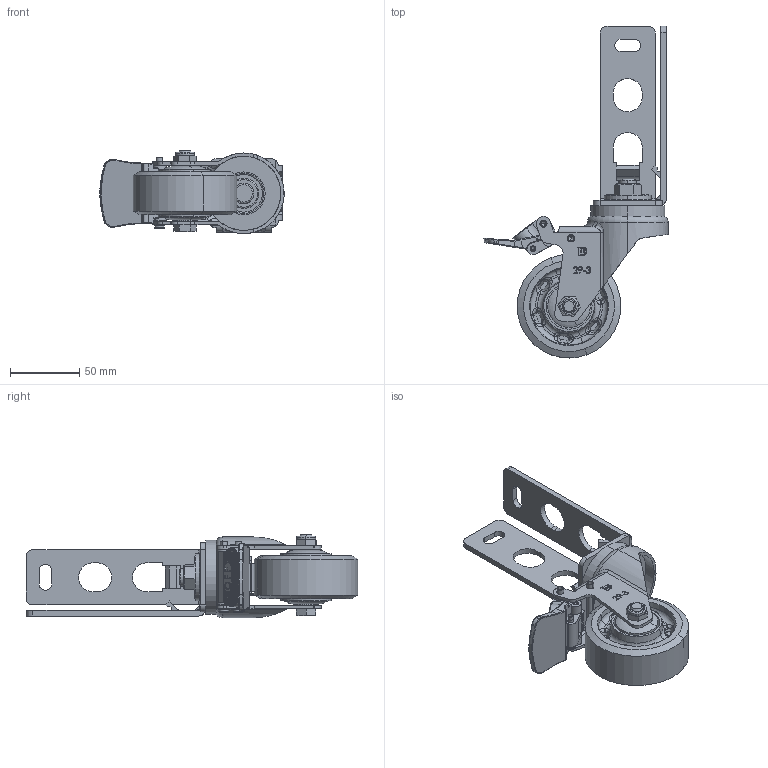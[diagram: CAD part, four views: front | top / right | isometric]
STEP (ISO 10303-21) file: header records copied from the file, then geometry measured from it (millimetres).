
FILE_DESCRIPTION (( 'STEP AP203' ), '1' );
FILE_NAME ('4112903004090-29系列雙煞W全效輪-珠光深灰-電著(心母鍍鋅)-3吋(75x31)-角鐵底板(3孔-PAT)-4t-展示用.STEP', '2024-08-01T03:19:46', ( '' ), ( '' ), 'SwSTEP 2.0', 'SolidWorks 2019', '' );
FILE_SCHEMA (( 'CONFIG_CONTROL_DESIGN' ));
Length unit declared in the file: millimetre
Products named in the file (14): 1235030020 W全效輪組(Resolute) 3''''(75x31-珠光深灰6002單)-42寬; 4112903004090-29系列雙煞W全效輪-珠光深灰-電著(心母鍍鋅)-3吋(75x31)-角鐵底板(3孔-PAT)-4t-展示用; 4201121906 30系列無牙螺帽鉚合用牙心-鍍鋅 2分之1''''-13牙x19L; 242020954001 4''''.5''''儀器.高級活動用車心 3 8''''-粗牙(11L)x54L(六角14對邊); 12106170400023 儀器雙煞踏板OFF(New架用) 4''''5''''6''''共用(灰色); 242010426001 4''''.5''''儀器架煞車彈片用鉚釘-3.9x3.0x26.5L; 212914030004 29系列雙煞腳片-沖壓 3''''用-展示用; 245020900003 尼龍螺帽  3 8''''(對邊14x7L); 4502120037 尼龍螺帽(薄)-電鍍 2分之1''''-13牙(8t); 2129120300006 29系列用角鐵底板-沖壓 3''''.4''''.5''''共用(3孔-PAT); 242010449001 4''''.5''''儀器輪用煞車空心鉚釘 4.8x49L; 242010434001 3''''4''''5''''儀器架用煞車鉚釘-壓直花(4x34L); 4503340001 鐵片華司(8020PU用) 34x2分之1''''x3.0t; 12106170400022 儀器雙煞踏板ON(New架用) 4''''5''''6''''共用(灰色)
Assembly tree (14 placements, depth 2):
  4112903004090-29系列雙煞W全效輪-珠光深灰-電著(心母鍍鋅)-3吋(75x31)-角鐵底板(3孔-PAT)-4t-展示用
    212914030004 29系列雙煞腳片-沖壓 3''''用-展示用
    12106170400022 儀器雙煞踏板ON(New架用) 4''''5''''6''''共用(灰色)
    12106170400023 儀器雙煞踏板OFF(New架用) 4''''5''''6''''共用(灰色)
    242020954001 4''''.5''''儀器.高級活動用車心 3 8''''-粗牙(11L)x54L(六角14對邊)
    245020900003 尼龍螺帽  3 8''''(對邊14x7L)
    242010434001 3''''4''''5''''儀器架用煞車鉚釘-壓直花(4x34L)
    242010426001 4''''.5''''儀器架煞車彈片用鉚釘-3.9x3.0x26.5L
    242010449001 4''''.5''''儀器輪用煞車空心鉚釘 4.8x49L  x2
    1235030020 W全效輪組(Resolute) 3''''(75x31-珠光深灰6002單)-42寬
    2129120300006 29系列用角鐵底板-沖壓 3''''.4''''.5''''共用(3孔-PAT)
    4201121906 30系列無牙螺帽鉚合用牙心-鍍鋅 2分之1''''-13牙x19L
    4502120037 尼龍螺帽(薄)-電鍍 2分之1''''-13牙(8t)
    4503340001 鐵片華司(8020PU用) 34x2分之1''''x3.0t
Bounding box: 133.37 x 240.3 x 60.45 mm (x, y, z)
Volume: 227786.6 mm3; surface area: 98660.6 mm2
Topology: 14 solids, 14 shells, 1030 faces, 2671 edges, 1711 vertices
Faces by surface type: plane 445, cylinder 268, bspline 221, torus 50, cone 36, sphere 10
Entity records: 48505 total; most frequent: CARTESIAN_POINT 23556, ORIENTED_EDGE 5266, DIRECTION 4349, EDGE_CURVE 2633, VERTEX_POINT 1692, AXIS2_PLACEMENT_3D 1524, VECTOR 1301, LINE 1301
